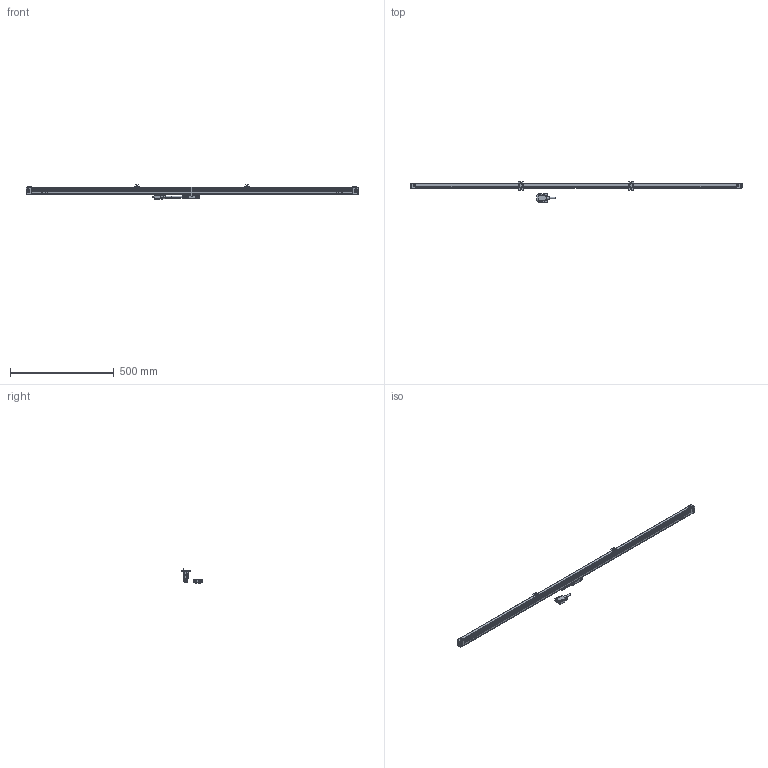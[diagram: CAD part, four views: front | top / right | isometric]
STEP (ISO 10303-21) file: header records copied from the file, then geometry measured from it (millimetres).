
FILE_DESCRIPTION(('Creo Elements/Direct Modeling STEP Export'),'2;1');
FILE_NAME('AT715-1400_営業送付.stp','2018-12-20T15:31:45',(''),(''),'Creo Elements/Direct Modeling STEP processor for AP214 (Solid Model)','Creo Elements/Direct Modeling 18.1B 29-Sep-2012 (C) Parametric Technology GmbH','');
FILE_SCHEMA(('AUTOMOTIVE_DESIGN { 1 0 10303 214 1 1 1 1 }'));
Length unit declared in the file: millimetre
Products named in the file (6): DetectorHead; Connector; Scale_1400_2; Scale_1400_3; Scale_1400_1; AT715-1400
Assembly tree (5 placements, depth 2):
  AT715-1400
    Scale_1400_1
    Scale_1400_3
    Scale_1400_2
    Connector
    DetectorHead
Bounding box: 1598 x 99 x 68.35 mm (x, y, z)
Volume: 3439673.9 mm3; surface area: 717623.3 mm2
Topology: 5 solids, 10 shells, 1725 faces, 4505 edges, 2837 vertices
Faces by surface type: plane 1073, cylinder 482, cone 72, extrusion 64, torus 18, sphere 12, bspline 4
Entity records: 52633 total; most frequent: CARTESIAN_POINT 10880, ORIENTED_EDGE 8986, DIRECTION 7955, EDGE_CURVE 4493, VECTOR 2923, LINE 2859, VERTEX_POINT 2837, AXIS2_PLACEMENT_3D 2516
